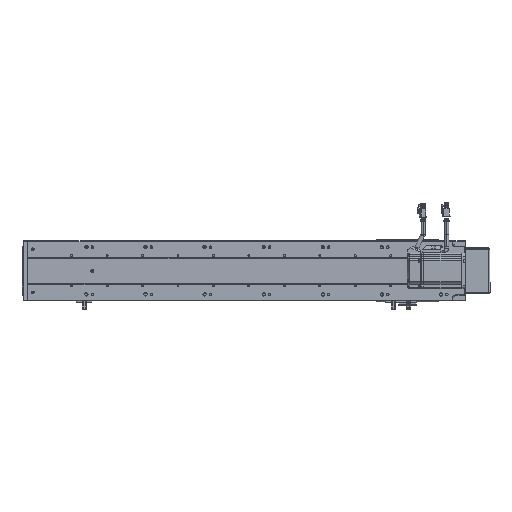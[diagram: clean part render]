
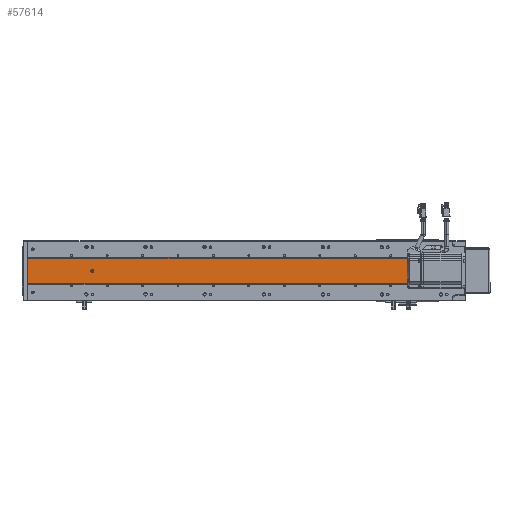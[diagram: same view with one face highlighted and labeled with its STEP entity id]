
A CAD part, front view. The second image highlights one B-rep face of the part: STEP entity #57614.
In plain terms, the highlighted planar face has unit normal (0, -1, 0).
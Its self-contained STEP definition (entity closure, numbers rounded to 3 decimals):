
#1908 = CARTESIAN_POINT ( 'NONE',  ( 140.403, 89.548, 709. ) ) ;
#1934 = DIRECTION ( 'NONE',  ( 0., -1., 0. ) ) ;
#1962 = DIRECTION ( 'NONE',  ( 1., 0., 0. ) ) ;
#11296 = CIRCLE ( 'NONE', #48886, 2.5 ) ;
#11310 = CIRCLE ( 'NONE', #48906, 4.75 ) ;
#11412 = LINE ( 'NONE', #54588, #11431 ) ;
#11431 = VECTOR ( 'NONE', #54608, 1000. ) ;
#11453 = LINE ( 'NONE', #54507, #11488 ) ;
#11488 = VECTOR ( 'NONE', #54504, 1000. ) ;
#11514 = VECTOR ( 'NONE', #54812, 1000. ) ;
#11546 = CIRCLE ( 'NONE', #48975, 4.75 ) ;
#11584 = LINE ( 'NONE', #54784, #11514 ) ;
#11733 = CIRCLE ( 'NONE', #48954, 2.5 ) ;
#12843 = CARTESIAN_POINT ( 'NONE',  ( 161.989, 89.548, 729.698 ) ) ;
#12875 = CARTESIAN_POINT ( 'NONE',  ( 161.989, 89.548, 719.698 ) ) ;
#12919 = CARTESIAN_POINT ( 'NONE',  ( 161.989, 89.548, 726.302 ) ) ;
#12960 = CARTESIAN_POINT ( 'NONE',  ( 161.989, 89.548, 736.302 ) ) ;
#13240 = CARTESIAN_POINT ( 'NONE',  ( 142.903, 89.548, 109. ) ) ;
#13270 = CARTESIAN_POINT ( 'NONE',  ( 142.903, 89.548, 709. ) ) ;
#13279 = CARTESIAN_POINT ( 'NONE',  ( 137.903, 89.548, 109. ) ) ;
#13295 = CARTESIAN_POINT ( 'NONE',  ( 137.903, 89.548, 709. ) ) ;
#17237 = EDGE_CURVE ( 'NONE', #39953, #40218, #42085, .T. ) ;
#17242 = EDGE_CURVE ( 'NONE', #40108, #40142, #42082, .T. ) ;
#17696 = EDGE_CURVE ( 'NONE', #40762, #40737, #42351, .T. ) ;
#17755 = EDGE_CURVE ( 'NONE', #41110, #40794, #42580, .T. ) ;
#17830 = EDGE_CURVE ( 'NONE', #40108, #40218, #42709, .T. ) ;
#17871 = EDGE_CURVE ( 'NONE', #39953, #75833, #42779, .T. ) ;
#17877 = EDGE_CURVE ( 'NONE', #75792, #75879, #42729, .T. ) ;
#17940 = EDGE_CURVE ( 'NONE', #75860, #75877, #42989, .T. ) ;
#17952 = EDGE_CURVE ( 'NONE', #75866, #75901, #42999, .T. ) ;
#18855 = AXIS2_PLACEMENT_3D ( 'NONE', #60000, #60029, #59990 ) ;
#19760 = EDGE_LOOP ( 'NONE', ( #28481, #28426 ) ) ;
#19805 = EDGE_LOOP ( 'NONE', ( #28509, #28444, #28467, #28470, #28411, #28413, #28496, #28414, #28417, #28519, #28514, #28475 ) ) ;
#19817 = EDGE_LOOP ( 'NONE', ( #28513, #28517 ) ) ;
#21001 = FACE_BOUND ( 'NONE', #19817, .T. ) ;
#21005 = FACE_OUTER_BOUND ( 'NONE', #19805, .T. ) ;
#21084 = FACE_BOUND ( 'NONE', #19760, .T. ) ;
#24381 = CARTESIAN_POINT ( 'NONE',  ( 140.403, 89.548, 109. ) ) ;
#24393 = DIRECTION ( 'NONE',  ( 0., -1., 0. ) ) ;
#24405 = DIRECTION ( 'NONE',  ( 1., 0., 0. ) ) ;
#24543 = DIRECTION ( 'NONE',  ( 0., -1., 0. ) ) ;
#24548 = CARTESIAN_POINT ( 'NONE',  ( 140.403, 89.548, 709. ) ) ;
#24549 = DIRECTION ( 'NONE',  ( 1., 0., 0. ) ) ;
#24750 = DIRECTION ( 'NONE',  ( 0., 0., -1. ) ) ;
#24757 = CARTESIAN_POINT ( 'NONE',  ( 161.989, 89.548, 739. ) ) ;
#24939 = DIRECTION ( 'NONE',  ( 0., 0., -1. ) ) ;
#24988 = CARTESIAN_POINT ( 'NONE',  ( 161.989, 89.548, 739. ) ) ;
#25018 = DIRECTION ( 'NONE',  ( 0., 0., -1. ) ) ;
#25032 = CARTESIAN_POINT ( 'NONE',  ( 118.817, 89.548, 739. ) ) ;
#25150 = CARTESIAN_POINT ( 'NONE',  ( 161.989, 89.548, 739. ) ) ;
#25174 = DIRECTION ( 'NONE',  ( 1., 0., 0. ) ) ;
#25224 = DIRECTION ( 'NONE',  ( 0., 0., -1. ) ) ;
#25230 = CARTESIAN_POINT ( 'NONE',  ( 118.817, 89.548, 739. ) ) ;
#28411 = ORIENTED_EDGE ( 'NONE', *, *, #45956, .T. ) ;
#28413 = ORIENTED_EDGE ( 'NONE', *, *, #45753, .T. ) ;
#28414 = ORIENTED_EDGE ( 'NONE', *, *, #45950, .T. ) ;
#28417 = ORIENTED_EDGE ( 'NONE', *, *, #17877, .T. ) ;
#28426 = ORIENTED_EDGE ( 'NONE', *, *, #17696, .F. ) ;
#28444 = ORIENTED_EDGE ( 'NONE', *, *, #17242, .T. ) ;
#28467 = ORIENTED_EDGE ( 'NONE', *, *, #45763, .F. ) ;
#28470 = ORIENTED_EDGE ( 'NONE', *, *, #17940, .F. ) ;
#28475 = ORIENTED_EDGE ( 'NONE', *, *, #17237, .T. ) ;
#28481 = ORIENTED_EDGE ( 'NONE', *, *, #46045, .F. ) ;
#28496 = ORIENTED_EDGE ( 'NONE', *, *, #17952, .T. ) ;
#28509 = ORIENTED_EDGE ( 'NONE', *, *, #17830, .F. ) ;
#28513 = ORIENTED_EDGE ( 'NONE', *, *, #45687, .F. ) ;
#28514 = ORIENTED_EDGE ( 'NONE', *, *, #17871, .F. ) ;
#28517 = ORIENTED_EDGE ( 'NONE', *, *, #17755, .F. ) ;
#28519 = ORIENTED_EDGE ( 'NONE', *, *, #45855, .T. ) ;
#34503 = DIRECTION ( 'NONE',  ( -1., 0., 0. ) ) ;
#34504 = CARTESIAN_POINT ( 'NONE',  ( 165.403, 89.548, 723. ) ) ;
#34514 = CARTESIAN_POINT ( 'NONE',  ( 165.403, 89.548, 733. ) ) ;
#34524 = DIRECTION ( 'NONE',  ( 0., 1., 0. ) ) ;
#34538 = DIRECTION ( 'NONE',  ( 0., 1., 0. ) ) ;
#34540 = DIRECTION ( 'NONE',  ( -1., 0., 0. ) ) ;
#39953 = VERTEX_POINT ( 'NONE', #12875 ) ;
#40108 = VERTEX_POINT ( 'NONE', #12843 ) ;
#40142 = VERTEX_POINT ( 'NONE', #12960 ) ;
#40218 = VERTEX_POINT ( 'NONE', #12919 ) ;
#40737 = VERTEX_POINT ( 'NONE', #13240 ) ;
#40762 = VERTEX_POINT ( 'NONE', #13279 ) ;
#40794 = VERTEX_POINT ( 'NONE', #13270 ) ;
#41110 = VERTEX_POINT ( 'NONE', #13295 ) ;
#42082 = CIRCLE ( 'NONE', #48420, 4.75 ) ;
#42085 = CIRCLE ( 'NONE', #48432, 4.75 ) ;
#42351 = CIRCLE ( 'NONE', #48494, 2.5 ) ;
#42580 = CIRCLE ( 'NONE', #48485, 2.5 ) ;
#42588 = VECTOR ( 'NONE', #24750, 1000. ) ;
#42709 = LINE ( 'NONE', #24757, #42588 ) ;
#42729 = LINE ( 'NONE', #25032, #42924 ) ;
#42779 = LINE ( 'NONE', #24988, #42795 ) ;
#42795 = VECTOR ( 'NONE', #24939, 1000. ) ;
#42924 = VECTOR ( 'NONE', #25018, 1000. ) ;
#42989 = LINE ( 'NONE', #25150, #43063 ) ;
#42999 = LINE ( 'NONE', #25230, #43090 ) ;
#43063 = VECTOR ( 'NONE', #25174, 1000. ) ;
#43090 = VECTOR ( 'NONE', #25224, 1000. ) ;
#45687 = EDGE_CURVE ( 'NONE', #40794, #41110, #11296, .T. ) ;
#45753 = EDGE_CURVE ( 'NONE', #75305, #75866, #11310, .T. ) ;
#45763 = EDGE_CURVE ( 'NONE', #75877, #40142, #11453, .T. ) ;
#45855 = EDGE_CURVE ( 'NONE', #75879, #75833, #11412, .T. ) ;
#45950 = EDGE_CURVE ( 'NONE', #75901, #75792, #11546, .T. ) ;
#45956 = EDGE_CURVE ( 'NONE', #75860, #75305, #11584, .T. ) ;
#46045 = EDGE_CURVE ( 'NONE', #40737, #40762, #11733, .T. ) ;
#48420 = AXIS2_PLACEMENT_3D ( 'NONE', #34514, #34524, #34503 ) ;
#48432 = AXIS2_PLACEMENT_3D ( 'NONE', #34504, #34538, #34540 ) ;
#48485 = AXIS2_PLACEMENT_3D ( 'NONE', #24548, #24543, #24549 ) ;
#48494 = AXIS2_PLACEMENT_3D ( 'NONE', #24381, #24393, #24405 ) ;
#48886 = AXIS2_PLACEMENT_3D ( 'NONE', #1908, #1934, #1962 ) ;
#48906 = AXIS2_PLACEMENT_3D ( 'NONE', #54574, #54509, #54550 ) ;
#48954 = AXIS2_PLACEMENT_3D ( 'NONE', #54995, #54978, #54997 ) ;
#48975 = AXIS2_PLACEMENT_3D ( 'NONE', #54842, #54833, #54825 ) ;
#54504 = DIRECTION ( 'NONE',  ( 0., 0., -1. ) ) ;
#54507 = CARTESIAN_POINT ( 'NONE',  ( 161.989, 89.548, 739. ) ) ;
#54509 = DIRECTION ( 'NONE',  ( 0., 1., 0. ) ) ;
#54550 = DIRECTION ( 'NONE',  ( -1., 0., 0. ) ) ;
#54574 = CARTESIAN_POINT ( 'NONE',  ( 115.403, 89.548, 733. ) ) ;
#54588 = CARTESIAN_POINT ( 'NONE',  ( 161.989, 89.548, 0. ) ) ;
#54608 = DIRECTION ( 'NONE',  ( 1., 0., 0. ) ) ;
#54784 = CARTESIAN_POINT ( 'NONE',  ( 118.817, 89.548, 739. ) ) ;
#54812 = DIRECTION ( 'NONE',  ( 0., 0., -1. ) ) ;
#54825 = DIRECTION ( 'NONE',  ( -1., 0., 0. ) ) ;
#54833 = DIRECTION ( 'NONE',  ( 0., 1., 0. ) ) ;
#54842 = CARTESIAN_POINT ( 'NONE',  ( 115.403, 89.548, 723. ) ) ;
#54978 = DIRECTION ( 'NONE',  ( 0., -1., 0. ) ) ;
#54995 = CARTESIAN_POINT ( 'NONE',  ( 140.403, 89.548, 109. ) ) ;
#54997 = DIRECTION ( 'NONE',  ( 1., 0., 0. ) ) ;
#57614 = ADVANCED_FACE ( 'NONE', ( #21001, #21084, #21005 ), #59997, .F. ) ;
#59990 = DIRECTION ( 'NONE',  ( -1., 0., 0. ) ) ;
#59997 = PLANE ( 'NONE',  #18855 ) ;
#60000 = CARTESIAN_POINT ( 'NONE',  ( 161.989, 89.548, 739. ) ) ;
#60029 = DIRECTION ( 'NONE',  ( 0., 1., 0. ) ) ;
#75305 = VERTEX_POINT ( 'NONE', #106393 ) ;
#75792 = VERTEX_POINT ( 'NONE', #106918 ) ;
#75833 = VERTEX_POINT ( 'NONE', #106988 ) ;
#75860 = VERTEX_POINT ( 'NONE', #107013 ) ;
#75866 = VERTEX_POINT ( 'NONE', #107031 ) ;
#75877 = VERTEX_POINT ( 'NONE', #107035 ) ;
#75879 = VERTEX_POINT ( 'NONE', #107059 ) ;
#75901 = VERTEX_POINT ( 'NONE', #107003 ) ;
#106393 = CARTESIAN_POINT ( 'NONE',  ( 118.817, 89.548, 736.302 ) ) ;
#106918 = CARTESIAN_POINT ( 'NONE',  ( 118.817, 89.548, 719.698 ) ) ;
#106988 = CARTESIAN_POINT ( 'NONE',  ( 161.989, 89.548, 0. ) ) ;
#107003 = CARTESIAN_POINT ( 'NONE',  ( 118.817, 89.548, 726.302 ) ) ;
#107013 = CARTESIAN_POINT ( 'NONE',  ( 118.817, 89.548, 739. ) ) ;
#107031 = CARTESIAN_POINT ( 'NONE',  ( 118.817, 89.548, 729.698 ) ) ;
#107035 = CARTESIAN_POINT ( 'NONE',  ( 161.989, 89.548, 739. ) ) ;
#107059 = CARTESIAN_POINT ( 'NONE',  ( 118.817, 89.548, 0. ) ) ;
